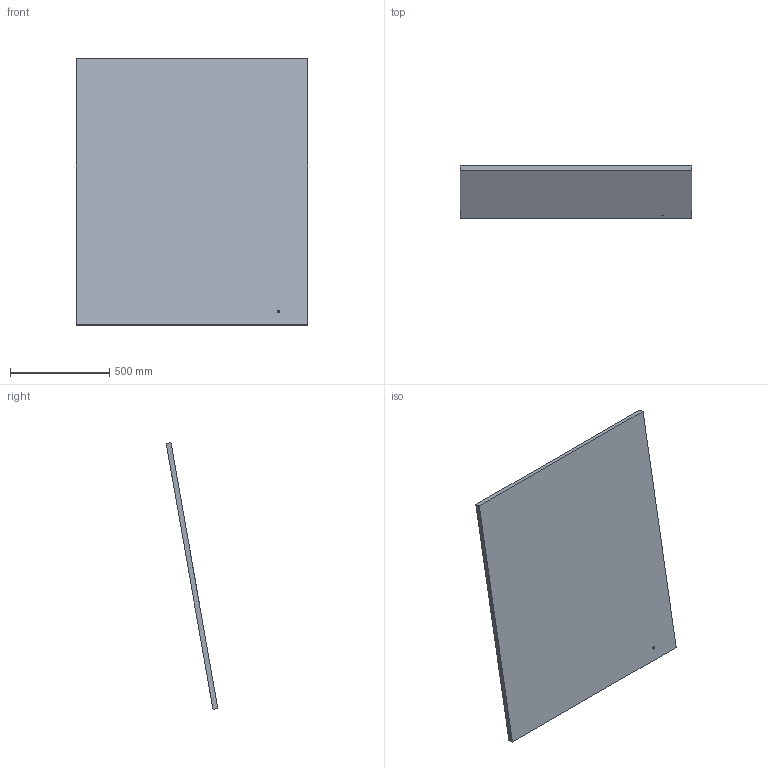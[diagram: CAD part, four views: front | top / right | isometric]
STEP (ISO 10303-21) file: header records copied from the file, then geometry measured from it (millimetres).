
FILE_DESCRIPTION(('golf model'),'2;1');
FILE_NAME('golf','',(''),(''),'golf_step_io','golf','');
FILE_SCHEMA(('AUTOMOTIVE_DESIGN { 1 0 10303 214 1 1 1 1 }'));
Length unit declared in the file: millimetre
Products named in the file (2): ASSEMBLY; bed.substrate.0
Assembly tree (1 placements, depth 2):
  ASSEMBLY
    bed.substrate.0
Bounding box: 1165.11 x 259.77 x 1340.64 mm (x, y, z)
Volume: 38732698.6 mm3; surface area: 3286437.1 mm2
Topology: 1 solids, 1 shells, 7 faces, 15 edges, 10 vertices
Faces by surface type: plane 6, cylinder 1
Full cylindrical faces by diameter (mm): 13 x1
Entity records: 224 total; most frequent: DIRECTION 34, CARTESIAN_POINT 33, ORIENTED_EDGE 28, EDGE_CURVE 14, VECTOR 12, LINE 12, AXIS2_PLACEMENT_3D 11, VERTEX_POINT 10
